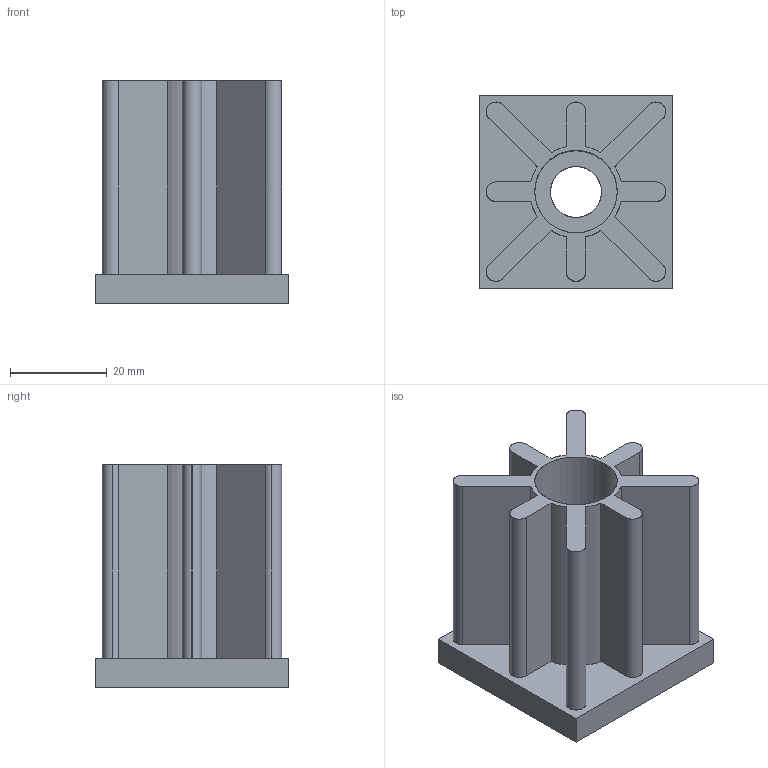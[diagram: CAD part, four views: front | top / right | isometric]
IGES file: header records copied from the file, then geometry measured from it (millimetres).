
Start section: SolidWorks IGES file using analytic representation for surfaces
Global section: file name: C:\Documents and Settings\URETIM3\Desktop\yeni katalog tolgay düzenli\A kataloðu\230 kare profil klavuzlari\230 kare profil klavuzlari montaj+part\230 401 215mntj.IGS; native system: SolidWorks 2006 by SolidWorks Corporation; preprocessor: SolidWorks 2006 by SolidWorks Corporation; author: URETIM3; date: 060912.092952; units: millimetre
Bounding box: 40 x 40 x 46 mm (x, y, z)
Surface area: 17149.7 mm2 (no closed solid volume)
Topology: 0 solids, 0 shells, 51 faces, 628 edges, 628 vertices
Faces by surface type: revolution 27, bspline 24
